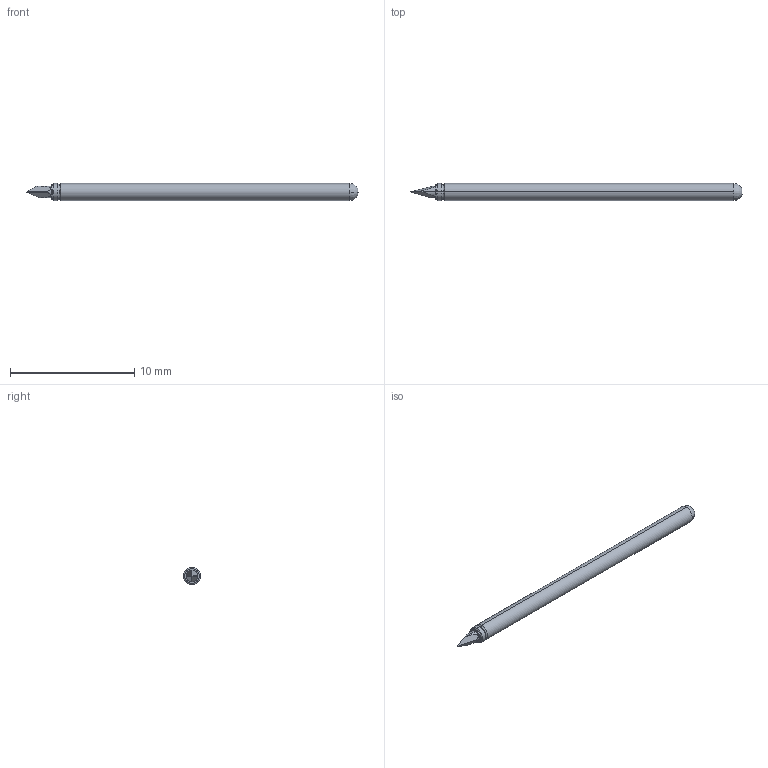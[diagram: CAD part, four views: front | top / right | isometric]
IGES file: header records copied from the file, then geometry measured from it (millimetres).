
Start section: SolidWorks IGES file using analytic representation for surfaces
Global section: file name: Z:\probe solid model mockups\Solidworks models\POGO-25 IGS files\POGO-25I35 Full.IGS; native system: SolidWorks 2006 by SolidWorks Corporation; preprocessor: SolidWorks 2006 by SolidWorks Corporation; author: tsakatani; date: 071214.100640; units: inch
Bounding box: 26.67 x 1.37 x 1.37 mm (x, y, z)
Surface area: 111 mm2 (no closed solid volume)
Topology: 0 solids, 0 shells, 22 faces, 166 edges, 166 vertices
Faces by surface type: revolution 12, bspline 10
